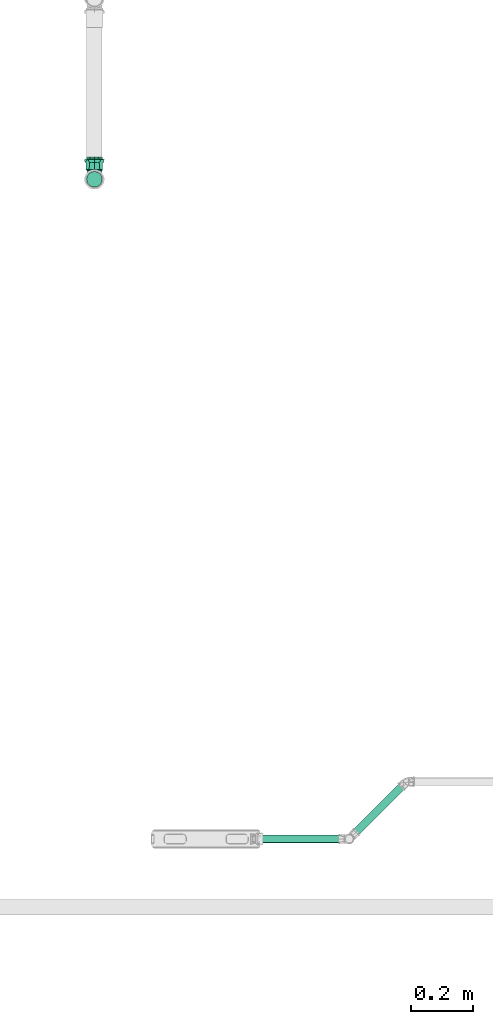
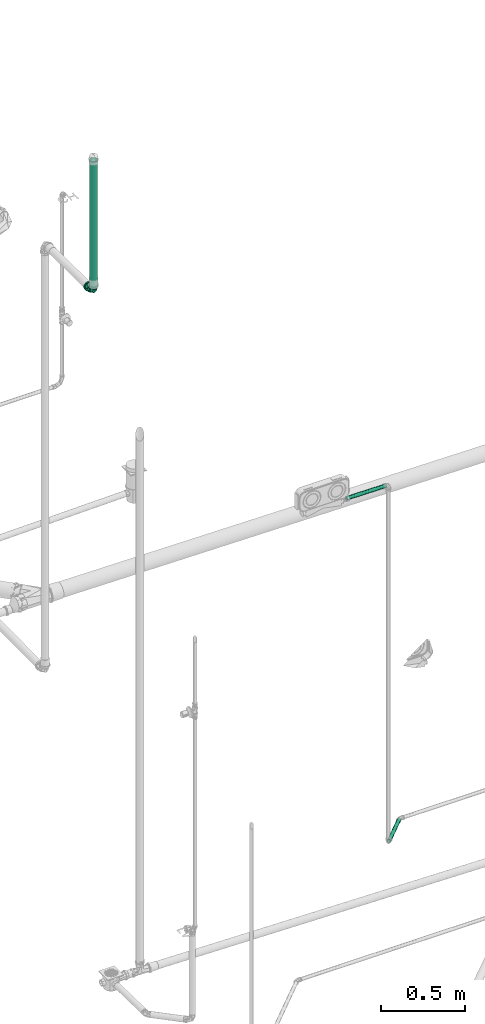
# One storey, part 271 of 589: 3 flow segments, 1 flow fitting.
"""IFC2X3 building model written with IfcOpenShell, lengths in millimetres."""

from ifc_helpers import new_model, entity, si_unit, converted_unit, derived_unit, direction, frame, frame_2d, origin, origin_2d_with_axis, place, context, subcontext, project, spatial, circle, extrude, faceted_brep, source, transform, mapped, material, type_object, type_shapes, element, save


model = new_model("IFC2X3")

# Units and contexts
model_context = context("Model", 3, precision=0.01, world=origin(), true_north=direction((6.123031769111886e-17, 1.0)))
body_context = subcontext(model_context, "Body", "Model", "MODEL_VIEW")
ifc_project = project(units=[si_unit("LENGTHUNIT", "METRE", prefix="MILLI"), si_unit("AREAUNIT", "SQUARE_METRE"), si_unit("VOLUMEUNIT", "CUBIC_METRE"), converted_unit("PLANEANGLEUNIT", "DEGREE", entity("IfcRatioMeasure", 0.017453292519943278), si_unit("PLANEANGLEUNIT", "RADIAN"), dimensions=[0, 0, 0, 0, 0, 0, 0]), si_unit("MASSUNIT", "GRAM", prefix="KILO"), derived_unit("MASSDENSITYUNIT", [(si_unit("MASSUNIT", "GRAM", prefix="KILO"), 1), (si_unit("LENGTHUNIT", "METRE"), -3)]), derived_unit("IONCONCENTRATIONUNIT", [(si_unit("MASSUNIT", "GRAM", prefix="KILO"), 1), (si_unit("LENGTHUNIT", "METRE"), -3)]), derived_unit("MOMENTOFINERTIAUNIT", [(si_unit("LENGTHUNIT", "METRE"), 4)]), si_unit("TIMEUNIT", "SECOND"), si_unit("FREQUENCYUNIT", "HERTZ"), si_unit("THERMODYNAMICTEMPERATUREUNIT", "DEGREE_CELSIUS"), derived_unit("THERMALTRANSMITTANCEUNIT", [(si_unit("MASSUNIT", "GRAM", prefix="KILO"), 1), (si_unit("THERMODYNAMICTEMPERATUREUNIT", "KELVIN"), -1), (si_unit("TIMEUNIT", "SECOND"), -3)]), derived_unit("THERMALCONDUCTANCEUNIT", [(si_unit("MASSUNIT", "GRAM", prefix="KILO"), 1), (si_unit("THERMODYNAMICTEMPERATUREUNIT", "KELVIN"), -1), (si_unit("TIMEUNIT", "SECOND"), -3), (si_unit("LENGTHUNIT", "METRE"), 1)]), derived_unit("VOLUMETRICFLOWRATEUNIT", [(si_unit("LENGTHUNIT", "METRE"), 3), (si_unit("TIMEUNIT", "SECOND"), -1)]), derived_unit("MASSFLOWRATEUNIT", [(si_unit("MASSUNIT", "GRAM", prefix="KILO"), 1), (si_unit("TIMEUNIT", "SECOND"), -1)]), derived_unit("ROTATIONALFREQUENCYUNIT", [(si_unit("TIMEUNIT", "SECOND"), -1)]), si_unit("ELECTRICCURRENTUNIT", "AMPERE"), si_unit("ELECTRICVOLTAGEUNIT", "VOLT"), si_unit("POWERUNIT", "WATT"), si_unit("FORCEUNIT", "NEWTON", prefix="KILO"), si_unit("ILLUMINANCEUNIT", "LUX"), si_unit("LUMINOUSFLUXUNIT", "LUMEN"), si_unit("LUMINOUSINTENSITYUNIT", "CANDELA"), derived_unit("USERDEFINED", [(si_unit("MASSUNIT", "GRAM", prefix="KILO"), -1), (si_unit("LENGTHUNIT", "METRE"), -2), (si_unit("TIMEUNIT", "SECOND"), 3), (si_unit("LUMINOUSFLUXUNIT", "LUMEN"), 1)]), derived_unit("USERDEFINED", [(si_unit("MASSUNIT", "GRAM", prefix="KILO"), 1), (si_unit("TIMEUNIT", "SECOND"), -3), (si_unit("LENGTHUNIT", "METRE"), 3), (si_unit("ELECTRICCURRENTUNIT", "AMPERE"), -2)]), derived_unit("SOUNDPOWERUNIT", [(si_unit("MASSUNIT", "GRAM", prefix="KILO"), 1), (si_unit("TIMEUNIT", "SECOND"), -3), (si_unit("LENGTHUNIT", "METRE"), 2)]), derived_unit("SOUNDPRESSUREUNIT", [(si_unit("MASSUNIT", "GRAM", prefix="KILO"), 1), (si_unit("LENGTHUNIT", "METRE"), -1), (si_unit("TIMEUNIT", "SECOND"), -2)]), derived_unit("LINEARVELOCITYUNIT", [(si_unit("LENGTHUNIT", "METRE"), 1), (si_unit("TIMEUNIT", "SECOND"), -1)]), si_unit("PRESSUREUNIT", "PASCAL"), derived_unit("USERDEFINED", [(si_unit("MASSUNIT", "GRAM", prefix="KILO"), 1), (si_unit("LENGTHUNIT", "METRE"), -2), (si_unit("TIMEUNIT", "SECOND"), -2)]), derived_unit("LINEARFORCEUNIT", [(si_unit("MASSUNIT", "GRAM", prefix="KILO"), 1), (si_unit("TIMEUNIT", "SECOND"), -2)]), derived_unit("PLANARFORCEUNIT", [(si_unit("MASSUNIT", "GRAM", prefix="KILO"), 1), (si_unit("LENGTHUNIT", "METRE"), -1), (si_unit("TIMEUNIT", "SECOND"), -2)]), derived_unit("SPECIFICHEATCAPACITYUNIT", [(si_unit("THERMODYNAMICTEMPERATUREUNIT", "KELVIN"), -1), (si_unit("LENGTHUNIT", "METRE"), 2), (si_unit("TIMEUNIT", "SECOND"), -2)]), derived_unit("HEATINGVALUEUNIT", [(si_unit("LENGTHUNIT", "METRE"), 2), (si_unit("TIMEUNIT", "SECOND"), -2)]), derived_unit("VAPORPERMEABILITYUNIT", [(si_unit("LENGTHUNIT", "METRE"), -1), (si_unit("TIMEUNIT", "SECOND"), 1)]), derived_unit("DYNAMICVISCOSITYUNIT", [(si_unit("MASSUNIT", "GRAM", prefix="KILO"), 1), (si_unit("TIMEUNIT", "SECOND"), -1), (si_unit("LENGTHUNIT", "METRE"), -1)]), derived_unit("THERMALEXPANSIONCOEFFICIENTUNIT", [(si_unit("THERMODYNAMICTEMPERATUREUNIT", "KELVIN"), -1)]), derived_unit("MODULUSOFELASTICITYUNIT", [(si_unit("MASSUNIT", "GRAM", prefix="KILO"), 1), (si_unit("LENGTHUNIT", "METRE"), -1), (si_unit("TIMEUNIT", "SECOND"), -2)]), derived_unit("ISOTHERMALMOISTURECAPACITYUNIT", [(si_unit("LENGTHUNIT", "METRE"), 3), (si_unit("MASSUNIT", "GRAM", prefix="KILO"), -1)]), derived_unit("MOISTUREDIFFUSIVITYUNIT", [(si_unit("TIMEUNIT", "SECOND"), -1), (si_unit("LENGTHUNIT", "METRE"), 2)])], contexts=[model_context])

# Site, building, storey
site_placement = place(None, origin())
site = spatial("IfcSite", under=ifc_project, at=site_placement, Name="Default", CompositionType="ELEMENT")
building_placement = place(site_placement, origin())
building = spatial("IfcBuilding", under=site, at=building_placement, CompositionType="ELEMENT")
storey_placement = place(building_placement, frame((0.0, 0.0, 100.0)))
storey = spatial("IfcBuildingStorey", under=building, at=storey_placement, Name="TÉRREO", CompositionType="ELEMENT", Elevation=100.0)

# Flow segments
pipe_segment_type_1 = type_object("IfcPipeSegmentType", Name="Tipos de tubos:PVC Esgoto Série Normal", PredefinedType="NOTDEFINED")
flow_segment_1_placement = place(storey_placement, origin())
element("IfcFlowSegment", 1, at=flow_segment_1_placement, inside=storey, type_object=pipe_segment_type_1, Name="Tipos de tubos:PVC Esgoto Série Normal", ObjectType="Tipos de tubos:PVC Esgoto Série Normal", context=body_context, shape_type="SweptSolid", body=[
    extrude(circle(Radius=25.0, at=origin_2d_with_axis()), frame((6108.335906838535, 5319.307135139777, 3028.741299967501), z_axis=(0.0, 0.0, 1.0), x_axis=(-1.0, 0.0, 0.0)), (0.0, 0.0, 1.0), 928.7587000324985),
])
pipe_segment_type_2 = type_object("IfcPipeSegmentType", Name="Tipos de tubos:PVC Marrom Soldável", PredefinedType="NOTDEFINED")
flow_segment_2_placement = place(storey_placement, origin())
element("IfcFlowSegment", 2, at=flow_segment_2_placement, inside=storey, type_object=pipe_segment_type_2, Name="Tipos de tubos:PVC Marrom Soldável", ObjectType="Tipos de tubos:PVC Marrom Soldável", context=body_context, shape_type="SweptSolid", body=[
    extrude(circle(Radius=12.5, at=frame_2d((-1.4763369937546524e-24, -8.459899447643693e-15), x_axis=(1.0, 0.0))), frame((6936.83220262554, 3216.6994930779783, -37.35980794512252), z_axis=(0.7070983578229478, 0.7071152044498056, 0.0), x_axis=(0.7071152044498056, -0.7070983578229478, 0.0)), (0.0, 0.0, 1.0), 235.87678738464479),
])
flow_segment_3_placement = place(storey_placement, origin())
element("IfcFlowSegment", 3, at=flow_segment_3_placement, inside=storey, type_object=pipe_segment_type_2, Name="Tipos de tubos:PVC Marrom Soldável", ObjectType="Tipos de tubos:PVC Marrom Soldável", context=body_context, shape_type="SweptSolid", body=[
    extrude(circle(Radius=12.5, at=origin_2d_with_axis()), frame((6632.663032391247, 3204.961595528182, 2579.199580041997), z_axis=(0.9999500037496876, 0.0, -0.009999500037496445), x_axis=(0.0, -1.0, 0.0)), (0.0, 0.0, 1.0), 275.97497746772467),
])

# Flow fitting
ifc_material = material(Name="PVC Série Normal")
pipe_fitting_type = type_object("IfcPipeFittingType", Name="PVC Esgoto_Joelho 45_90_Rodrigo MEP:a. Série Normal", PredefinedType="NOTDEFINED", material=ifc_material)
shared_shape = source(origin(), body_context, "Body", "Brep", [
    faceted_brep([(-6.212752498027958, 25.804714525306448, 24.14814565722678), (-21.392152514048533, 25.95650852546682, 12.500000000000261), (-24.741349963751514, 25.990000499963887, 0.0), (-21.392152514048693, 25.956508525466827, -12.499999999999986), (-6.21275249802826, 25.804714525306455, -24.1481456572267), (6.727552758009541, 25.675311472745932, -24.14814565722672), (21.906952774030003, 25.52351747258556, -12.500000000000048), (25.256150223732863, 25.490025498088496, 0.0), (21.906952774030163, 25.52351747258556, 12.499999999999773), (6.7275527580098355, 25.675311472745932, 24.148145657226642), (25.308147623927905, 30.689765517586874, 0.0), (21.958950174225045, 30.72325749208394, -12.500000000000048), (6.779550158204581, 30.87505149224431, -24.14814565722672), (-6.160755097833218, 31.004454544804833, -24.1481456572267), (-21.34015511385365, 31.156248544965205, -12.499999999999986), (-24.689352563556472, 31.18974051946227, 0.0), (-21.340155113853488, 31.1562485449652, 12.500000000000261), (-6.160755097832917, 31.00445454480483, 24.14814565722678), (6.779550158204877, 30.87505149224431, 24.148145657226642), (21.958950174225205, 30.72325749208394, 12.499999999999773)], [[[0, 1, 2, 3, 4, 5, 6, 7, 8, 9]], [[10, 11, 12, 13, 14, 15, 16, 17, 18, 19]], [[7, 10, 19, 8]], [[8, 19, 18, 9]], [[18, 17, 0, 9]], [[0, 17, 16, 1]], [[1, 16, 15, 2]], [[2, 15, 14, 3]], [[3, 14, 13, 4]], [[13, 12, 5, 4]], [[5, 12, 11, 6]], [[6, 11, 10, 7]]]),
    faceted_brep([(-70.94129996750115, -6.988114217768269, -26.07999730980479), (-70.94129996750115, -6.47047612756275, -24.14814565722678), (-70.94129996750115, 6.4704761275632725, -24.148145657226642), (-70.94129996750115, -23.382685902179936, -13.499999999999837), (-70.94129996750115, 6.988114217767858, -26.0799973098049), (-70.94129996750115, -21.650635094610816, -12.500000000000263), (-70.94129996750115, -25.0, 0.0), (-70.94129996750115, -27.0, 0.0), (-70.94129996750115, -21.650635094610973, 12.499999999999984), (-70.94129996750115, -23.382685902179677, 13.500000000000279), (-70.94129996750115, -6.470476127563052, 24.1481456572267), (-70.94129996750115, -6.98811421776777, 26.079997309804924), (-70.94129996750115, 6.470476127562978, 24.14814565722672), (-70.94129996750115, 6.988114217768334, 26.07999730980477), (-70.94129996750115, 21.650635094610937, 12.500000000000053), (-70.94129996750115, 23.38268590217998, 13.499999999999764), (-70.94129996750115, 27.0, 0.0), (-70.94129996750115, 25.0, 0.0), (-70.94129996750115, 23.382685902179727, -13.500000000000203), (-70.94129996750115, 21.6506350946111, -12.499999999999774), (-30.94129996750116, 21.650635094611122, -12.499999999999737), (-30.94129996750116, 25.0, 0.0), (-30.94129996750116, 6.4704761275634, -24.148145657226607), (-30.94129996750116, -6.470476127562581, -24.148145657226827), (-30.94129996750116, -21.650635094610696, -12.500000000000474), (-30.94129996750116, -25.0, 0.0), (-30.94129996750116, -21.65063509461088, 12.500000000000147), (-30.94129996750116, -6.470476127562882, 24.14814565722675), (-30.94129996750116, 6.470476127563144, 24.148145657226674), (-30.94129996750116, 21.650635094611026, 12.499999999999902), (-30.94129996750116, 27.0, 0.0), (-30.941299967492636, 20.682232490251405, 17.356418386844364), (-30.94129996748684, 4.685536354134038, 26.59033187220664), (-30.94129996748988, -20.686585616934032, 17.35122979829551), (-30.94129996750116, -27.0, 0.0), (-30.941299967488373, -8.000524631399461, 21.970780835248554), (-30.94129996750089, -20.686585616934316, -17.35122979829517), (-30.9412999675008, -4.6922062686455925, -26.589155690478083), (-30.94129996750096, 20.682232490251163, -17.356418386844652), (-30.94129996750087, 7.995013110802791, -21.97278703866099), (-28.74129996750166, -4.338459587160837, -24.62067765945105), (-28.741299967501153, 25.0, 0.0), (-28.741299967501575, 19.154245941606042, -16.065953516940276), (-28.741299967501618, 7.407893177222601, -20.34331558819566), (-28.741299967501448, -19.15021526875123, -16.070757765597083), (-28.741299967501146, -25.0, 0.0), (-28.741299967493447, -19.150215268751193, 16.07075776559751), (-28.741299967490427, -7.402789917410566, 20.345173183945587), (-28.74129996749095, 19.15424594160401, 16.065953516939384), (-28.741299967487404, 4.344635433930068, 24.619588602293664), (-25.741299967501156, 25.0, 0.0), (-25.741299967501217, 19.151286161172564, 16.069481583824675), (-25.741299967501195, 4.341396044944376, 24.62016003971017), (-25.741299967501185, -7.404832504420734, 20.344954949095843), (-25.741299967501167, -19.15106105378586, 16.069749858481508), (-25.741299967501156, -25.0, 0.0), (-25.741299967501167, -19.15106105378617, -16.069749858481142), (-25.741299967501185, -4.341051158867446, -24.62022085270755), (-25.741299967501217, 19.15128616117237, -16.069481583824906), (-25.7412999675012, 7.405117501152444, -20.344851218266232), (-6.212752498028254, 25.80471452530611, -24.1481456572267), (-21.39215251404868, 25.95650852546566, -12.499999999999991), (-24.74134996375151, 25.990000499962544, 0.0), (-21.3921525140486, 25.956508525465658, 12.500000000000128), (-6.2127524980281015, 25.80471452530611, 24.14814565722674), (6.7275527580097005, 25.67531147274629, 24.148145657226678), (21.906952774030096, 25.52351747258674, 12.499999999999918), (25.256150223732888, 25.490025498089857, 0.0), (21.90695277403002, 25.523517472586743, -12.500000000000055), (6.727552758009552, 25.67531147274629, -24.14814565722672), (-0.83580225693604, 1.5246716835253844, 23.354962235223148), (-3.2027279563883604, -15.730161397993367, 0.0), (10.140389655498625, -10.242300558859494, 0.0), (16.135012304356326, 8.632944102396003, 15.848254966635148), (-25.03773742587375, 25.289366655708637, 0.0), (15.761400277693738, 3.0452732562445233, 0.0), (16.135011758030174, 8.632944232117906, -15.848255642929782), (-0.8751695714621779, 1.433288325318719, -23.341145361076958)], [[[0, 1, 2]], [[1, 0, 3]], [[2, 4, 0]], [[3, 5, 1]], [[3, 6, 5]], [[6, 3, 7]], [[8, 6, 7]], [[8, 7, 9]], [[9, 10, 8]], [[9, 11, 10]], [[10, 11, 12]], [[13, 12, 11]], [[13, 14, 12]], [[14, 13, 15]], [[16, 14, 15]], [[17, 14, 16]], [[18, 17, 16]], [[18, 19, 17]], [[19, 18, 4]], [[4, 2, 19]], [[20, 21, 17, 19]], [[22, 20, 19, 2]], [[2, 1, 23, 22]], [[24, 23, 1, 5]], [[25, 24, 5, 6]], [[26, 25, 6, 8]], [[27, 26, 8, 10]], [[10, 12, 28, 27]], [[29, 28, 12, 14]], [[21, 29, 14, 17]], [[16, 15, 30]], [[15, 31, 30]], [[31, 15, 13]], [[31, 13, 32]], [[33, 11, 9]], [[34, 9, 7]], [[11, 33, 35, 32]], [[33, 9, 34]], [[11, 32, 13]], [[7, 3, 34]], [[3, 36, 34]], [[36, 3, 0]], [[36, 0, 37]], [[38, 4, 18]], [[30, 18, 16]], [[4, 38, 39, 37]], [[38, 18, 30]], [[4, 37, 0]], [[28, 29, 21, 20, 22, 23, 24, 25, 26, 27]], [[39, 40, 37]], [[41, 42, 30]], [[30, 42, 38]], [[38, 43, 39]], [[44, 45, 36]], [[38, 42, 43]], [[36, 37, 44]], [[34, 36, 45]], [[40, 39, 43]], [[44, 37, 40]], [[45, 46, 33]], [[33, 34, 45]], [[46, 35, 33]], [[46, 47, 35]], [[47, 32, 35]], [[48, 41, 30]], [[48, 31, 49]], [[31, 48, 30]], [[32, 47, 49]], [[49, 31, 32]], [[41, 48, 50]], [[48, 51, 50]], [[51, 48, 49]], [[51, 49, 52]], [[52, 47, 53]], [[46, 54, 53]], [[46, 45, 54]], [[49, 47, 52]], [[54, 45, 55]], [[47, 46, 53]], [[45, 44, 56]], [[45, 56, 55]], [[56, 44, 57]], [[58, 59, 43]], [[44, 40, 57]], [[40, 59, 57]], [[58, 43, 42]], [[42, 50, 58]], [[50, 42, 41]], [[59, 40, 43]], [[60, 61, 62, 63, 64, 65, 66, 67, 68, 69]], [[52, 70, 51]], [[54, 71, 70]], [[70, 52, 53, 54]], [[72, 73, 70]], [[50, 63, 74]], [[51, 63, 50]], [[54, 55, 71]], [[72, 70, 71]], [[75, 67, 66]], [[65, 70, 73]], [[73, 75, 66]], [[74, 63, 62]], [[73, 66, 65]], [[63, 51, 64]], [[70, 64, 51]], [[73, 72, 75]], [[65, 64, 70]], [[72, 76, 75]], [[71, 55, 56]], [[77, 58, 60]], [[77, 57, 59, 58]], [[77, 71, 56]], [[56, 57, 77]], [[77, 69, 76]], [[58, 50, 61]], [[74, 62, 61]], [[71, 77, 72]], [[61, 60, 58]], [[68, 75, 76]], [[68, 67, 75]], [[72, 77, 76]], [[76, 69, 68]], [[60, 69, 77]], [[61, 50, 74]]]),
    faceted_brep([(-53.94129996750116, 6.9881142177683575, -26.07999730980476), (-53.94129996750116, -6.988114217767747, -26.079997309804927), (-53.94129996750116, -8.282209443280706, -30.909626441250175), (-53.94129996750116, 8.28220944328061, -30.9096264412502), (-53.94129996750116, 23.38268590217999, -13.499999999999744), (-53.94129996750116, -27.712812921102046, -16.0), (-53.94129996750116, -23.38268590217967, -13.500000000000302), (-53.94129996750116, -27.0, 0.0), (-53.94129996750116, -32.0, 0.0), (-53.94129996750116, -23.382685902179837, 13.500000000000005), (-53.94129996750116, -27.712812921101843, 16.0), (-53.94129996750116, -6.988114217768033, 26.07999730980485), (-53.94129996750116, -8.28220944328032, 30.909626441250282), (-53.94129996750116, 6.988114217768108, 26.07999730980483), (-53.94129996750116, 8.282209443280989, 30.909626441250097), (-53.94129996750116, 23.382685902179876, 13.499999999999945), (-53.94129996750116, 27.712812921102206, 16.0), (-53.94129996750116, 32.0, 0.0), (-53.94129996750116, 27.0, 0.0), (-53.94129996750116, 27.712812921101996, -16.0), (-63.94129996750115, 27.0, 0.0), (-65.24129996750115, 27.0, 0.0), (-63.94129996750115, 25.191342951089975, -6.750000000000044), (-63.94129996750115, 23.38268590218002, -13.499999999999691), (-63.94129996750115, 19.284042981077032, -16.644999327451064), (-63.94129996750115, 15.185400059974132, -19.789998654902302), (-63.94129996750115, 11.086757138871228, -22.934997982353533), (-63.94129996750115, 6.988114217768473, -26.07999730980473), (-63.94129996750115, 0.0, -26.079997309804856), (-63.94129996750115, -6.988114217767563, -26.079997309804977), (-63.94129996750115, -11.086757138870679, -22.934997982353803), (-63.94129996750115, -15.185400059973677, -19.789998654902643), (-63.94129996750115, -19.284042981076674, -16.644999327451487), (-63.94129996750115, -23.382685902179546, -13.50000000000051), (-63.94129996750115, -25.191342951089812, -6.750000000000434), (-65.24129996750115, -27.0, 0.0), (-63.94129996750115, -27.0, 0.0), (-63.94129996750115, -25.19134295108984, 6.750000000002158), (-63.94129996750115, -23.382685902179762, 13.500000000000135), (-63.94129996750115, -19.284042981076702, 16.64499932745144), (-63.94129996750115, -15.185400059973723, 19.7899986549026), (-63.94129996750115, -11.086757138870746, 22.934997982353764), (-63.94129996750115, -6.988114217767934, 26.079997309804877), (-63.94129996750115, 0.0, 26.079997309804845), (-63.94129996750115, 6.988114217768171, 26.079997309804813), (-63.94129996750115, 11.086757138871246, 22.93499798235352), (-63.94129996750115, 15.185400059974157, 19.789998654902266), (-63.94129996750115, 19.284042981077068, 16.644999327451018), (-63.94129996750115, 23.382685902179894, 13.499999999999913), (-63.94129996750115, 25.19134295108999, 6.74999999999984), (-63.94129996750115, 32.0, 0.0), (-63.94129996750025, 24.512275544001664, 20.570569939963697), (-63.94129996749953, -5.561133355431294, 31.51307341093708), (-63.94129996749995, -24.51743480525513, 20.56442050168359), (-63.94129996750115, -32.0, 0.0), (-63.9412999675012, -24.51743480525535, -20.564420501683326), (-63.941299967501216, 5.553228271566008, -31.514467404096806), (-63.94129996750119, 24.512275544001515, -20.570569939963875), (-65.2412999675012, -23.84329280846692, -8.675614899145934), (-65.24129996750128, -20.686585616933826, -17.351229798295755), (-65.24129996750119, 23.841116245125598, -8.678209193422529), (-65.24129996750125, 20.6822324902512, -17.356418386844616), (-65.24129996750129, -12.689395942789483, -21.970192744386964), (-65.24129996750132, -4.692206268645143, -26.589155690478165), (-65.24129996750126, 14.338622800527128, -19.664602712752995), (-65.24129996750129, 1.6514034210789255, -24.280971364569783), (-65.24129996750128, 7.995013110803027, -21.97278703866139), (-65.24129996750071, 23.84111624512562, 8.678209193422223), (-65.24129996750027, 20.68223249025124, 17.35641838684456), (-65.24129996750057, -23.843292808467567, 8.675614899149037), (-65.24129996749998, -20.68658561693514, 17.351229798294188), (-65.24129996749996, 12.683884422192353, 21.973375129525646), (-65.24129996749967, 4.685536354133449, 26.590331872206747), (-65.2412999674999, -14.343555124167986, 19.66100531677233), (-65.24129996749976, -1.6574941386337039, 24.280556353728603), (-65.24129996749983, -8.000524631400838, 21.97078083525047)], [[[0, 1, 2]], [[2, 3, 0]], [[4, 0, 3]], [[5, 2, 1]], [[1, 6, 5]], [[6, 7, 5]], [[8, 5, 7]], [[8, 7, 9]], [[10, 8, 9]], [[9, 11, 10]], [[11, 12, 10]], [[13, 12, 11]], [[12, 13, 14]], [[13, 15, 14]], [[16, 14, 15]], [[16, 15, 17]], [[17, 15, 18]], [[18, 4, 19]], [[17, 18, 19]], [[3, 19, 4]], [[4, 18, 20, 21, 22, 23]], [[0, 4, 23, 24, 25, 26, 27]], [[0, 27, 28, 29, 1]], [[6, 1, 29, 30, 31, 32, 33]], [[7, 6, 33, 34, 35, 36]], [[9, 7, 36, 35, 37, 38]], [[11, 9, 38, 39, 40, 41, 42]], [[11, 42, 43, 44, 13]], [[15, 13, 44, 45, 46, 47, 48]], [[18, 15, 48, 49, 21, 20]], [[50, 51, 16]], [[50, 16, 17]], [[16, 51, 14]], [[51, 52, 14]], [[12, 52, 53]], [[10, 53, 54]], [[53, 10, 12]], [[10, 54, 8]], [[52, 12, 14]], [[54, 55, 5]], [[54, 5, 8]], [[5, 55, 2]], [[55, 56, 2]], [[3, 56, 57]], [[19, 57, 50]], [[57, 19, 3]], [[19, 50, 17]], [[56, 3, 2]], [[58, 33, 59]], [[23, 60, 61]], [[32, 31, 59, 33]], [[30, 29, 62, 31]], [[24, 23, 61, 25]], [[29, 28, 63]], [[26, 25, 64]], [[65, 63, 28]], [[31, 62, 59]], [[63, 62, 29]], [[60, 22, 21]], [[34, 58, 35]], [[66, 26, 64]], [[28, 27, 65]], [[27, 66, 65]], [[27, 26, 66]], [[64, 25, 61]], [[34, 33, 58]], [[60, 23, 22]], [[67, 48, 68]], [[38, 69, 70]], [[47, 46, 68, 48]], [[45, 44, 71, 46]], [[39, 38, 70, 40]], [[44, 43, 72]], [[41, 40, 73]], [[74, 72, 43]], [[46, 71, 68]], [[72, 71, 44]], [[69, 37, 35]], [[49, 67, 21]], [[75, 41, 73]], [[43, 42, 74]], [[42, 75, 74]], [[42, 41, 75]], [[73, 40, 70]], [[49, 48, 67]], [[69, 38, 37]], [[54, 35, 58, 59, 55]], [[55, 59, 62, 63]], [[55, 63, 56]], [[57, 61, 60, 21, 50]], [[57, 56, 61]], [[56, 63, 65, 66, 64, 61]], [[50, 21, 67, 68, 51]], [[51, 68, 71, 72]], [[51, 72, 52]], [[53, 70, 69, 35, 54]], [[53, 52, 70]], [[52, 72, 74, 75, 73, 70]]]),
])
type_shapes(pipe_fitting_type, [shared_shape])
flow_fitting_placement = place(storey_placement, frame((6108.335906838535, 5319.307135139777, 2997.7999999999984), z_axis=(-1.0, 0.0, 0.0), x_axis=(0.0, -0.9999500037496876, 0.009999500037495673)))
element("IfcFlowFitting", 4, at=flow_fitting_placement, inside=storey, type_object=pipe_fitting_type, material=ifc_material, Name="PVC Esgoto_Joelho 45_90_Rodrigo MEP:a. Série Normal", ObjectType="PVC Esgoto_Joelho 45_90_Rodrigo MEP:a. Série Normal", context=body_context, shape_type="MappedRepresentation", body=[
    mapped(shared_shape, transform((0.0, 0.0, 0.0), scale=1.0)),
])

save(model, "model.ifc")
